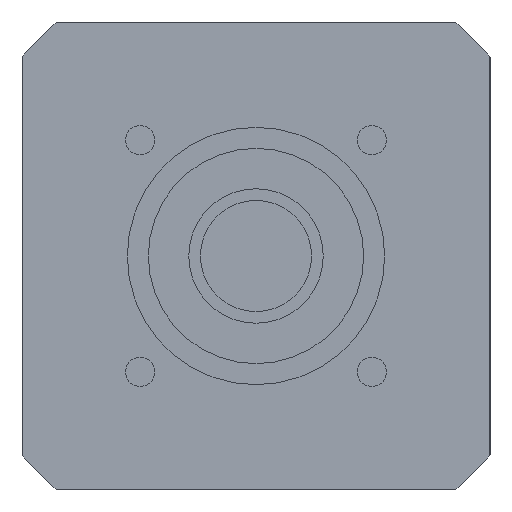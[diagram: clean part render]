
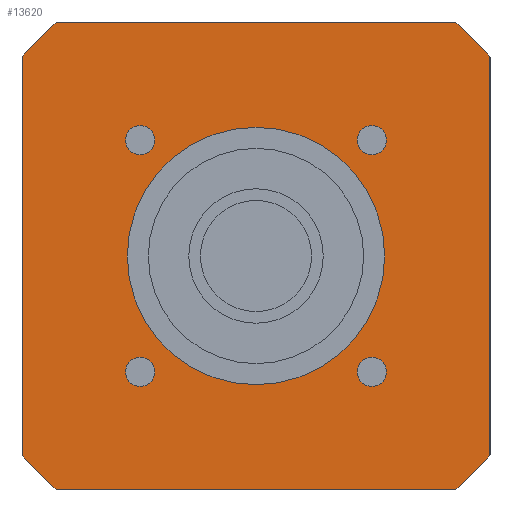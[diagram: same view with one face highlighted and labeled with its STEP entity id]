
A CAD part, left-side view. The second image highlights one B-rep face of the part: STEP entity #13620.
In plain terms, the highlighted planar face has unit normal (-1, 0, 0) as drawn and (0, 0, -1) by its records, which use the part's own axes.
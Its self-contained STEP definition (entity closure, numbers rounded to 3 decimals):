
#8660=CARTESIAN_POINT('',(40.,-34.004,-44.2));
#8670=VERTEX_POINT('',#8660);
#8700=CARTESIAN_POINT('',(0.,0.,
-44.2));
#8710=DIRECTION('',(0.,0.,1.));
#8720=DIRECTION('',(1.,0.,0.));
#8730=AXIS2_PLACEMENT_3D('',#8700,#8710,#8720);
#8740=CIRCLE('',#8730,52.5);
#8750=CARTESIAN_POINT('',(34.004,-40.,-44.2));
#8760=VERTEX_POINT('',#8750);
#8770=EDGE_CURVE('',#8760,#8670,#8740,.T.);
#9080=CARTESIAN_POINT('',(-34.004,-40.,-44.2));
#9090=VERTEX_POINT('',#9080);
#9190=CARTESIAN_POINT('',(-40.,-40.,-44.2));
#9200=DIRECTION('',(1.,0.,0.));
#9210=VECTOR('',#9200,1000.);
#9220=LINE('',#9190,#9210);
#9230=EDGE_CURVE('',#9090,#8760,#9220,.T.);
#11960=CARTESIAN_POINT('',(40.,34.004,-44.2));
#11970=VERTEX_POINT('',#11960);
#12050=CARTESIAN_POINT('',(34.004,40.,-44.2));
#12060=VERTEX_POINT('',#12050);
#12090=CARTESIAN_POINT('',(0.,0.,
-44.2));
#12100=DIRECTION('',(0.,0.,1.));
#12110=DIRECTION('',(1.,0.,0.));
#12120=AXIS2_PLACEMENT_3D('',#12090,#12100,#12110);
#12130=CIRCLE('',#12120,52.5);
#12140=EDGE_CURVE('',#11970,#12060,#12130,.T.);
#12190=CARTESIAN_POINT('',(40.,40.,-44.2));
#12200=DIRECTION('',(0.,0.,1.));
#12210=DIRECTION('',(0.,1.,0.));
#12220=AXIS2_PLACEMENT_3D('',#12190,#12200,#12210);
#12230=PLANE('',#12220);
#12240=CARTESIAN_POINT('',(0.,0.,
-44.2));
#12250=DIRECTION('',(0.,0.,1.));
#12260=DIRECTION('',(1.,0.,0.));
#12270=AXIS2_PLACEMENT_3D('',#12240,#12250,#12260);
#12280=CIRCLE('',#12270,52.5);
#12290=CARTESIAN_POINT('',(-34.004,40.,-44.2));
#12300=VERTEX_POINT('',#12290);
#12310=CARTESIAN_POINT('',(-40.,34.004,-44.2));
#12320=VERTEX_POINT('',#12310);
#12330=EDGE_CURVE('',#12300,#12320,#12280,.T.);
#12340=ORIENTED_EDGE('',*,*,#12330,.F.);
#12350=CARTESIAN_POINT('',(-40.,40.,-44.2));
#12360=DIRECTION('',(0.,-1.,0.));
#12370=VECTOR('',#12360,1000.);
#12380=LINE('',#12350,#12370);
#12390=CARTESIAN_POINT('',(-40.,-34.004,-44.2));
#12400=VERTEX_POINT('',#12390);
#12410=EDGE_CURVE('',#12320,#12400,#12380,.T.);
#12420=ORIENTED_EDGE('',*,*,#12410,.F.);
#12430=CARTESIAN_POINT('',(0.,0.,
-44.2));
#12440=DIRECTION('',(0.,0.,1.));
#12450=DIRECTION('',(1.,0.,0.));
#12460=AXIS2_PLACEMENT_3D('',#12430,#12440,#12450);
#12470=CIRCLE('',#12460,52.5);
#12480=EDGE_CURVE('',#12400,#9090,#12470,.T.);
#12490=ORIENTED_EDGE('',*,*,#12480,.F.);
#12500=ORIENTED_EDGE('',*,*,#9230,.F.);
#12510=ORIENTED_EDGE('',*,*,#8770,.F.);
#12520=CARTESIAN_POINT('',(40.,-40.,-44.2));
#12530=DIRECTION('',(0.,1.,0.));
#12540=VECTOR('',#12530,1000.);
#12550=LINE('',#12520,#12540);
#12560=EDGE_CURVE('',#8670,#11970,#12550,.T.);
#12570=ORIENTED_EDGE('',*,*,#12560,.F.);
#12580=ORIENTED_EDGE('',*,*,#12140,.F.);
#12590=CARTESIAN_POINT('',(40.,40.,-44.2));
#12600=DIRECTION('',(-1.,0.,0.));
#12610=VECTOR('',#12600,1000.);
#12620=LINE('',#12590,#12610);
#12630=EDGE_CURVE('',#12060,#12300,#12620,.T.);
#12640=ORIENTED_EDGE('',*,*,#12630,.F.);
#12650=EDGE_LOOP('',(#12640,#12580,#12570,#12510,#12500,#12490,#12420,
#12340));
#12660=FACE_OUTER_BOUND('',#12650,.T.);
#12670=CARTESIAN_POINT('',(-19.799,19.799,-44.2));
#12680=DIRECTION('',(0.,0.,-1.));
#12690=DIRECTION('',(1.,0.,0.));
#12700=AXIS2_PLACEMENT_3D('',#12670,#12680,#12690);
#12710=CIRCLE('',#12700,2.5);
#12720=CARTESIAN_POINT('',(-17.299,19.799,-44.2));
#12730=VERTEX_POINT('',#12720);
#12740=CARTESIAN_POINT('',(-19.799,17.299,-44.2));
#12750=VERTEX_POINT('',#12740);
#12760=EDGE_CURVE('',#12730,#12750,#12710,.T.);
#12770=ORIENTED_EDGE('',*,*,#12760,.F.);
#12780=CARTESIAN_POINT('',(-19.799,22.299,-44.2));
#12790=VERTEX_POINT('',#12780);
#12800=EDGE_CURVE('',#12750,#12790,#12710,.T.);
#12810=ORIENTED_EDGE('',*,*,#12800,.F.);
#12820=EDGE_CURVE('',#12790,#12730,#12710,.T.);
#12830=ORIENTED_EDGE('',*,*,#12820,.F.);
#12840=EDGE_LOOP('',(#12830,#12810,#12770));
#12850=FACE_BOUND('',#12840,.T.);
#12860=CARTESIAN_POINT('',(19.799,19.799,-44.2));
#12870=DIRECTION('',(0.,0.,-1.));
#12880=DIRECTION('',(1.,0.,0.));
#12890=AXIS2_PLACEMENT_3D('',#12860,#12870,#12880);
#12900=CIRCLE('',#12890,2.5);
#12910=CARTESIAN_POINT('',(22.299,19.799,-44.2));
#12920=VERTEX_POINT('',#12910);
#12930=CARTESIAN_POINT('',(19.799,17.299,-44.2));
#12940=VERTEX_POINT('',#12930);
#12950=EDGE_CURVE('',#12920,#12940,#12900,.T.);
#12960=ORIENTED_EDGE('',*,*,#12950,.F.);
#12970=CARTESIAN_POINT('',(19.799,22.299,-44.2));
#12980=VERTEX_POINT('',#12970);
#12990=EDGE_CURVE('',#12940,#12980,#12900,.T.);
#13000=ORIENTED_EDGE('',*,*,#12990,.F.);
#13010=EDGE_CURVE('',#12980,#12920,#12900,.T.);
#13020=ORIENTED_EDGE('',*,*,#13010,.F.);
#13030=EDGE_LOOP('',(#13020,#13000,#12960));
#13040=FACE_BOUND('',#13030,.T.);
#13050=CARTESIAN_POINT('',(19.799,-19.799,-44.2));
#13060=DIRECTION('',(0.,0.,-1.));
#13070=DIRECTION('',(1.,0.,0.));
#13080=AXIS2_PLACEMENT_3D('',#13050,#13060,#13070);
#13090=CIRCLE('',#13080,2.5);
#13100=CARTESIAN_POINT('',(22.299,-19.799,-44.2));
#13110=VERTEX_POINT('',#13100);
#13120=CARTESIAN_POINT('',(19.799,-22.299,-44.2));
#13130=VERTEX_POINT('',#13120);
#13140=EDGE_CURVE('',#13110,#13130,#13090,.T.);
#13150=ORIENTED_EDGE('',*,*,#13140,.F.);
#13160=CARTESIAN_POINT('',(19.799,-17.299,-44.2));
#13170=VERTEX_POINT('',#13160);
#13180=EDGE_CURVE('',#13130,#13170,#13090,.T.);
#13190=ORIENTED_EDGE('',*,*,#13180,.F.);
#13200=EDGE_CURVE('',#13170,#13110,#13090,.T.);
#13210=ORIENTED_EDGE('',*,*,#13200,.F.);
#13220=EDGE_LOOP('',(#13210,#13190,#13150));
#13230=FACE_BOUND('',#13220,.T.);
#13240=CARTESIAN_POINT('',(-19.799,-19.799,-44.2));
#13250=DIRECTION('',(0.,0.,-1.));
#13260=DIRECTION('',(1.,0.,0.));
#13270=AXIS2_PLACEMENT_3D('',#13240,#13250,#13260);
#13280=CIRCLE('',#13270,2.5);
#13290=CARTESIAN_POINT('',(-17.299,-19.799,-44.2));
#13300=VERTEX_POINT('',#13290);
#13310=CARTESIAN_POINT('',(-19.799,-22.299,-44.2));
#13320=VERTEX_POINT('',#13310);
#13330=EDGE_CURVE('',#13300,#13320,#13280,.T.);
#13340=ORIENTED_EDGE('',*,*,#13330,.F.);
#13350=CARTESIAN_POINT('',(-19.799,-17.299,-44.2));
#13360=VERTEX_POINT('',#13350);
#13370=EDGE_CURVE('',#13320,#13360,#13280,.T.);
#13380=ORIENTED_EDGE('',*,*,#13370,.F.);
#13390=EDGE_CURVE('',#13360,#13300,#13280,.T.);
#13400=ORIENTED_EDGE('',*,*,#13390,.F.);
#13410=EDGE_LOOP('',(#13400,#13380,#13340));
#13420=FACE_BOUND('',#13410,.T.);
#13430=CARTESIAN_POINT('',(0.,0.,
-44.2));
#13440=DIRECTION('',(0.,0.,1.));
#13450=DIRECTION('',(1.,0.,0.));
#13460=AXIS2_PLACEMENT_3D('',#13430,#13440,#13450);
#13470=CIRCLE('',#13460,22.);
#13480=CARTESIAN_POINT('',(0.,22.,-44.2));
#13490=VERTEX_POINT('',#13480);
#13500=CARTESIAN_POINT('',(0.,-22.,-44.2));
#13510=VERTEX_POINT('',#13500);
#13520=EDGE_CURVE('',#13490,#13510,#13470,.T.);
#13530=ORIENTED_EDGE('',*,*,#13520,.T.);
#13540=CARTESIAN_POINT('',(22.,0.,-44.2));
#13550=VERTEX_POINT('',#13540);
#13560=EDGE_CURVE('',#13550,#13490,#13470,.T.);
#13570=ORIENTED_EDGE('',*,*,#13560,.T.);
#13580=EDGE_CURVE('',#13510,#13550,#13470,.T.);
#13590=ORIENTED_EDGE('',*,*,#13580,.T.);
#13600=EDGE_LOOP('',(#13590,#13570,#13530));
#13610=FACE_BOUND('',#13600,.T.);
#13620=ADVANCED_FACE('',(#12660,#12850,#13040,#13230,#13420,#13610),
#12230,.F.);
